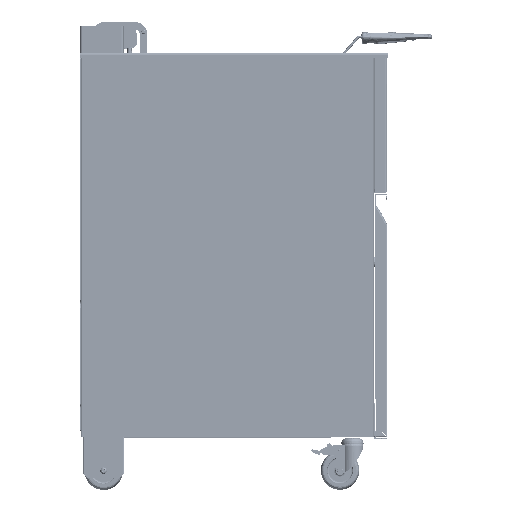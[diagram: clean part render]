
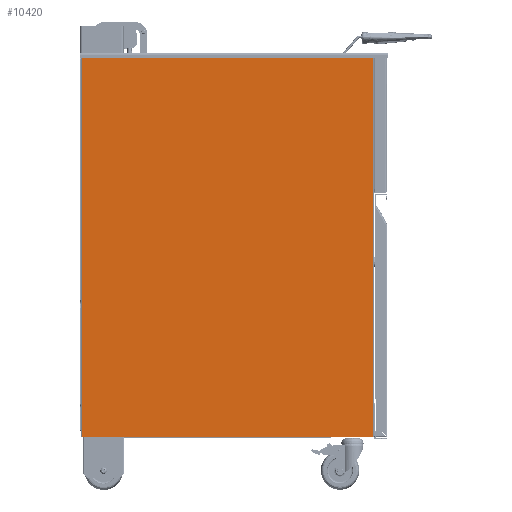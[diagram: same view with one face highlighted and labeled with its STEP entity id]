
A CAD part, left-side view. The second image highlights one B-rep face of the part: STEP entity #10420.
In plain terms, the highlighted planar face has unit normal (-1, 0, 0).
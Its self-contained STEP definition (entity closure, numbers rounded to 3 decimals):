
#10420=ADVANCED_FACE('',(#18707),#136006,.T.);
#18707=FACE_OUTER_BOUND('',#27762,.T.);
#27762=EDGE_LOOP('',(#68954,#68955,#68956,#68957,#68958,#68959,#68960,#68961,
#68962,#68963,#68964,#68965,#68966,#68967,#68968,#68969));
#68954=ORIENTED_EDGE('',*,*,#90296,.F.);
#68955=ORIENTED_EDGE('',*,*,#90297,.F.);
#68956=ORIENTED_EDGE('',*,*,#90298,.F.);
#68957=ORIENTED_EDGE('',*,*,#90299,.F.);
#68958=ORIENTED_EDGE('',*,*,#90300,.F.);
#68959=ORIENTED_EDGE('',*,*,#90301,.F.);
#68960=ORIENTED_EDGE('',*,*,#90302,.F.);
#68961=ORIENTED_EDGE('',*,*,#90303,.F.);
#68962=ORIENTED_EDGE('',*,*,#90304,.F.);
#68963=ORIENTED_EDGE('',*,*,#90305,.F.);
#68964=ORIENTED_EDGE('',*,*,#90306,.F.);
#68965=ORIENTED_EDGE('',*,*,#90307,.F.);
#68966=ORIENTED_EDGE('',*,*,#90308,.F.);
#68967=ORIENTED_EDGE('',*,*,#90309,.F.);
#68968=ORIENTED_EDGE('',*,*,#90310,.F.);
#68969=ORIENTED_EDGE('',*,*,#90295,.F.);
#90295=EDGE_CURVE('',#131266,#131267,#103677,.T.);
#90296=EDGE_CURVE('',#131268,#131266,#103678,.T.);
#90297=EDGE_CURVE('',#131269,#131268,#103679,.T.);
#90298=EDGE_CURVE('',#131270,#131269,#103680,.T.);
#90299=EDGE_CURVE('',#131271,#131270,#103681,.T.);
#90300=EDGE_CURVE('',#131272,#131271,#103682,.T.);
#90301=EDGE_CURVE('',#131273,#131272,#103683,.T.);
#90302=EDGE_CURVE('',#131274,#131273,#103684,.T.);
#90303=EDGE_CURVE('',#131275,#131274,#103685,.T.);
#90304=EDGE_CURVE('',#131276,#131275,#103686,.T.);
#90305=EDGE_CURVE('',#131277,#131276,#103687,.T.);
#90306=EDGE_CURVE('',#131278,#131277,#103688,.T.);
#90307=EDGE_CURVE('',#131279,#131278,#103689,.T.);
#90308=EDGE_CURVE('',#131280,#131279,#103690,.T.);
#90309=EDGE_CURVE('',#131281,#131280,#103691,.T.);
#90310=EDGE_CURVE('',#131267,#131281,#103692,.T.);
#103677=B_SPLINE_CURVE_WITH_KNOTS('',1,(#432871,#432872),.UNSPECIFIED.,
 .F.,.F.,(2,2),(-2.5,0.),.UNSPECIFIED.);
#103678=B_SPLINE_CURVE_WITH_KNOTS('',1,(#432873,#432874),.UNSPECIFIED.,
 .F.,.F.,(2,2),(-0.5,0.),.UNSPECIFIED.);
#103679=B_SPLINE_CURVE_WITH_KNOTS('',1,(#432875,#432876),.UNSPECIFIED.,
 .F.,.F.,(2,2),(-0.5,0.),.UNSPECIFIED.);
#103680=B_SPLINE_CURVE_WITH_KNOTS('',1,(#432877,#432878),.UNSPECIFIED.,
 .F.,.F.,(2,2),(-402.,0.),.UNSPECIFIED.);
#103681=B_SPLINE_CURVE_WITH_KNOTS('',1,(#432879,#432880),.UNSPECIFIED.,
 .F.,.F.,(2,2),(-0.5,0.),.UNSPECIFIED.);
#103682=B_SPLINE_CURVE_WITH_KNOTS('',1,(#432881,#432882),.UNSPECIFIED.,
 .F.,.F.,(2,2),(-0.5,0.),.UNSPECIFIED.);
#103683=B_SPLINE_CURVE_WITH_KNOTS('',1,(#432883,#432884),.UNSPECIFIED.,
 .F.,.F.,(2,2),(-2.5,0.),.UNSPECIFIED.);
#103684=B_SPLINE_CURVE_WITH_KNOTS('',1,(#432885,#432886),.UNSPECIFIED.,
 .F.,.F.,(2,2),(-81.335,0.),.UNSPECIFIED.);
#103685=B_SPLINE_CURVE_WITH_KNOTS('',1,(#432887,#432888),.UNSPECIFIED.,
 .F.,.F.,(2,2),(-744.8,0.),.UNSPECIFIED.);
#103686=B_SPLINE_CURVE_WITH_KNOTS('',1,(#432889,#432890),.UNSPECIFIED.,
 .F.,.F.,(2,2),(-81.835,0.),.UNSPECIFIED.);
#103687=B_SPLINE_CURVE_WITH_KNOTS('',1,(#432891,#432892),.UNSPECIFIED.,
 .F.,.F.,(2,2),(-0.2,0.),.UNSPECIFIED.);
#103688=B_SPLINE_CURVE_WITH_KNOTS('',1,(#432893,#432894),.UNSPECIFIED.,
 .F.,.F.,(2,2),(-402.,0.),.UNSPECIFIED.);
#103689=B_SPLINE_CURVE_WITH_KNOTS('',1,(#432895,#432896),.UNSPECIFIED.,
 .F.,.F.,(2,2),(-0.2,0.),.UNSPECIFIED.);
#103690=B_SPLINE_CURVE_WITH_KNOTS('',1,(#432897,#432898),.UNSPECIFIED.,
 .F.,.F.,(2,2),(-81.835,0.),.UNSPECIFIED.);
#103691=B_SPLINE_CURVE_WITH_KNOTS('',1,(#432899,#432900),.UNSPECIFIED.,
 .F.,.F.,(2,2),(-744.8,0.),.UNSPECIFIED.);
#103692=B_SPLINE_CURVE_WITH_KNOTS('',1,(#432901,#432902),.UNSPECIFIED.,
 .F.,.F.,(2,2),(-81.335,0.),.UNSPECIFIED.);
#131266=VERTEX_POINT('',#432535);
#131267=VERTEX_POINT('',#432536);
#131268=VERTEX_POINT('',#432537);
#131269=VERTEX_POINT('',#432538);
#131270=VERTEX_POINT('',#432539);
#131271=VERTEX_POINT('',#432540);
#131272=VERTEX_POINT('',#432541);
#131273=VERTEX_POINT('',#432542);
#131274=VERTEX_POINT('',#432543);
#131275=VERTEX_POINT('',#432544);
#131276=VERTEX_POINT('',#432545);
#131277=VERTEX_POINT('',#432546);
#131278=VERTEX_POINT('',#432547);
#131279=VERTEX_POINT('',#432548);
#131280=VERTEX_POINT('',#432549);
#131281=VERTEX_POINT('',#432550);
#136006=PLANE('',#152341);
#152341=AXIS2_PLACEMENT_3D('',#432266,#172870,$);
#172870=DIRECTION('',(-1.,0.,0.));
#432266=CARTESIAN_POINT('',(-297.,-338.5,28.));
#432535=CARTESIAN_POINT('',(-297.,-200.597,845.));
#432536=CARTESIAN_POINT('',(-297.,-200.597,847.5));
#432537=CARTESIAN_POINT('',(-297.,-200.097,845.));
#432538=CARTESIAN_POINT('',(-297.,-200.097,845.5));
#432539=CARTESIAN_POINT('',(-297.,201.903,845.5));
#432540=CARTESIAN_POINT('',(-297.,201.903,845.));
#432541=CARTESIAN_POINT('',(-297.,202.403,845.));
#432542=CARTESIAN_POINT('',(-297.,202.403,847.5));
#432543=CARTESIAN_POINT('',(-297.,283.738,847.5));
#432544=CARTESIAN_POINT('',(-297.,283.738,102.7));
#432545=CARTESIAN_POINT('',(-297.,201.903,102.7));
#432546=CARTESIAN_POINT('',(-297.,201.903,102.5));
#432547=CARTESIAN_POINT('',(-297.,-200.097,102.5));
#432548=CARTESIAN_POINT('',(-297.,-200.097,102.7));
#432549=CARTESIAN_POINT('',(-297.,-281.932,102.7));
#432550=CARTESIAN_POINT('',(-297.,-281.932,847.5));
#432871=CARTESIAN_POINT('',(-297.,-200.597,845.));
#432872=CARTESIAN_POINT('',(-297.,-200.597,847.5));
#432873=CARTESIAN_POINT('',(-297.,-200.097,845.));
#432874=CARTESIAN_POINT('',(-297.,-200.597,845.));
#432875=CARTESIAN_POINT('',(-297.,-200.097,845.5));
#432876=CARTESIAN_POINT('',(-297.,-200.097,845.));
#432877=CARTESIAN_POINT('',(-297.,201.903,845.5));
#432878=CARTESIAN_POINT('',(-297.,-200.097,845.5));
#432879=CARTESIAN_POINT('',(-297.,201.903,845.));
#432880=CARTESIAN_POINT('',(-297.,201.903,845.5));
#432881=CARTESIAN_POINT('',(-297.,202.403,845.));
#432882=CARTESIAN_POINT('',(-297.,201.903,845.));
#432883=CARTESIAN_POINT('',(-297.,202.403,847.5));
#432884=CARTESIAN_POINT('',(-297.,202.403,845.));
#432885=CARTESIAN_POINT('',(-297.,283.738,847.5));
#432886=CARTESIAN_POINT('',(-297.,202.403,847.5));
#432887=CARTESIAN_POINT('',(-297.,283.738,102.7));
#432888=CARTESIAN_POINT('',(-297.,283.738,847.5));
#432889=CARTESIAN_POINT('',(-297.,201.903,102.7));
#432890=CARTESIAN_POINT('',(-297.,283.738,102.7));
#432891=CARTESIAN_POINT('',(-297.,201.903,102.5));
#432892=CARTESIAN_POINT('',(-297.,201.903,102.7));
#432893=CARTESIAN_POINT('',(-297.,-200.097,102.5));
#432894=CARTESIAN_POINT('',(-297.,201.903,102.5));
#432895=CARTESIAN_POINT('',(-297.,-200.097,102.7));
#432896=CARTESIAN_POINT('',(-297.,-200.097,102.5));
#432897=CARTESIAN_POINT('',(-297.,-281.932,102.7));
#432898=CARTESIAN_POINT('',(-297.,-200.097,102.7));
#432899=CARTESIAN_POINT('',(-297.,-281.932,847.5));
#432900=CARTESIAN_POINT('',(-297.,-281.932,102.7));
#432901=CARTESIAN_POINT('',(-297.,-200.597,847.5));
#432902=CARTESIAN_POINT('',(-297.,-281.932,847.5));
